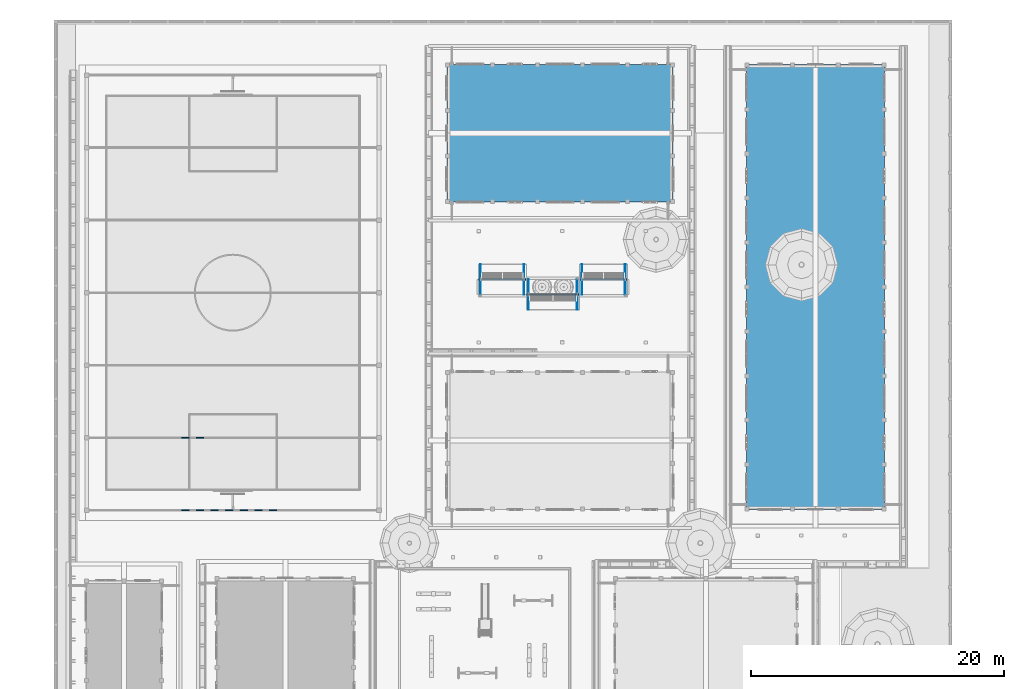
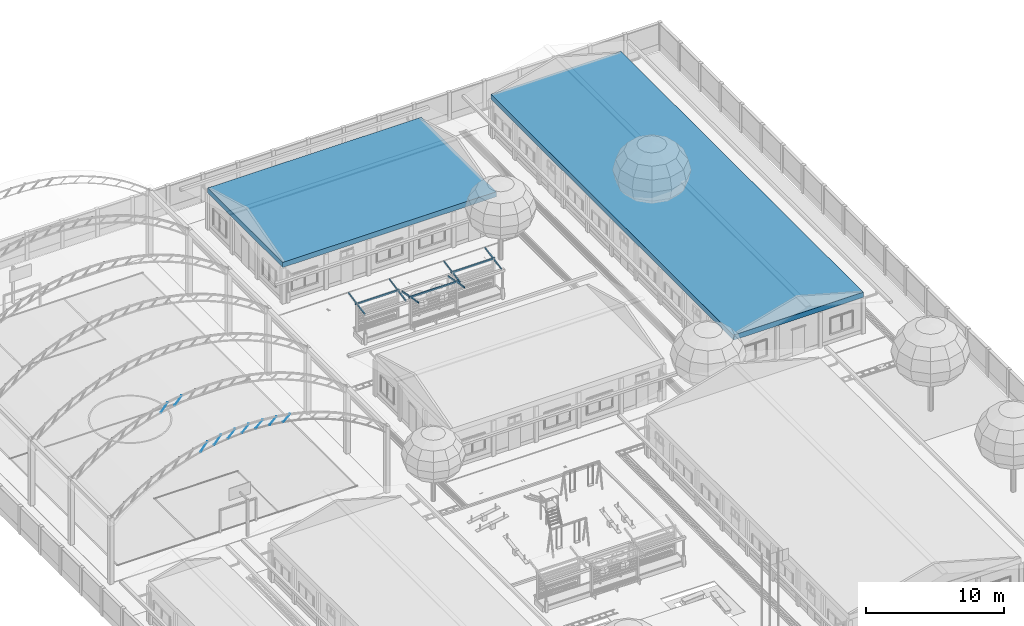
# One storey, part 24 of 166: 20 beams.
"""IFC2X3 building model written with IfcOpenShell, lengths in metres."""

import ifcopenshell
import ifcopenshell.guid

model = None  # the IFC model being written
_history = None  # IfcOwnerHistory: only IFC2X3 demands one
_inside = {}  # id of a spatial element -> (the spatial element, [elements in it])
_under = {}  # id of a project, library or spatial element -> (it, [spatial elements below it])
_declared = {}  # id of a project -> (the project, [libraries it declares])
_typed = {}  # id of a type object -> (the type object, [elements of that type])
_made_of = {}  # id of a material, layer set ... -> (it, [elements and type objects made of it])


def new_model(schema):
    """Start an empty IFC model of exactly this schema.

    Asked for "IFC4X3", IfcOpenShell would pick the latest addendum, in which some entities
    have other attributes; the version numbers below select the first issue.
    IFC2X3 requires an IfcOwnerHistory on every rooted entity: one is made here for all.
    """
    global model, _history
    if schema == "IFC4X3":
        model = ifcopenshell.file(schema_version=(4, 3, 0, 0))
    else:
        model = ifcopenshell.file(schema=schema)
    _inside.clear()
    _under.clear()
    _declared.clear()
    _typed.clear()
    _made_of.clear()
    _history = None
    if model.schema == "IFC2X3":
        org = make("IfcOrganization", Name="unknown")
        user = make(
            "IfcPersonAndOrganization",
            ThePerson=make("IfcPerson", FamilyName="unknown"),
            TheOrganization=org,
        )
        app = make(
            "IfcApplication",
            ApplicationDeveloper=org,
            Version="unknown",
            ApplicationFullName="unknown",
            ApplicationIdentifier="unknown",
        )
        _history = make(
            "IfcOwnerHistory",
            OwningUser=user,
            OwningApplication=app,
            ChangeAction="ADDED",
            CreationDate=0,
        )
    return model


def make(cls, **values):
    """One entity of the class cls with the attributes given. An attribute that is None is left unset."""
    return model.create_entity(
        cls, **{name: value for name, value in values.items() if value is not None}
    )


def rooted(cls, **values):
    """An entity with a GlobalId (a new one), such as an element, a storey or a relation."""
    return make(cls, GlobalId=ifcopenshell.guid.new(), OwnerHistory=_history, **values)


def si_unit(unit_type, name, prefix=None):
    """IfcSIUnit, for example si_unit("LENGTHUNIT", "METRE", prefix="MILLI")."""
    return make("IfcSIUnit", UnitType=unit_type, Prefix=prefix, Name=name)


def assignment(units):
    """IfcUnitAssignment: the units of a project."""
    return None if units is None else make("IfcUnitAssignment", Units=units)


def point(xyz):
    """IfcCartesianPoint."""
    return None if xyz is None else make("IfcCartesianPoint", Coordinates=xyz)


def direction(xyz):
    """IfcDirection."""
    return None if xyz is None else make("IfcDirection", DirectionRatios=xyz)


def frame(location, z_axis=None, x_axis=None):
    """IfcAxis2Placement3D, a coordinate frame: its origin and axes. An axis left out is left unset."""
    return make(
        "IfcAxis2Placement3D",
        Location=point(location),
        Axis=direction(z_axis),
        RefDirection=direction(x_axis),
    )


def origin():
    """The frame at (0, 0, 0) with its axes left unset."""
    return frame((0.0, 0.0, 0.0))


def origin_with_axes():
    """The frame at (0, 0, 0) with the z axis (0, 0, 1) and the x axis (1, 0, 0) written out."""
    return frame((0.0, 0.0, 0.0), z_axis=(0.0, 0.0, 1.0), x_axis=(1.0, 0.0, 0.0))


def place(relative_to, where):
    """IfcLocalPlacement: puts the frame where relative to a parent placement (None: the world)."""
    return make(
        "IfcLocalPlacement", PlacementRelTo=relative_to, RelativePlacement=where
    )


def context(
    kind, dimensions, precision=None, world=None, true_north=None, identifier=None
):
    """IfcGeometricRepresentationContext, for example the 3D "Model" context."""
    return make(
        "IfcGeometricRepresentationContext",
        ContextIdentifier=identifier,
        ContextType=kind,
        CoordinateSpaceDimension=dimensions,
        Precision=precision,
        WorldCoordinateSystem=world,
        TrueNorth=true_north,
    )


def subcontext(parent, identifier, kind, view, scale=None):
    """IfcGeometricRepresentationSubContext, for example "Body" below "Model"."""
    return make(
        "IfcGeometricRepresentationSubContext",
        ContextIdentifier=identifier,
        ContextType=kind,
        ParentContext=parent,
        TargetScale=scale,
        TargetView=view,
    )


def project(units=None, contexts=None):
    """IfcProject with its units and contexts."""
    return rooted(
        "IfcProject",
        Name="project",
        RepresentationContexts=contexts,
        UnitsInContext=assignment(units),
    )


def spatial(cls, under=None, at=None, **own):
    """A site, building, storey or space (cls), placed at a placement, below another one or the project."""
    s = rooted(cls, ObjectPlacement=at, **own)
    if under is not None:
        _under.setdefault(under.id(), (under, []))[1].append(s)
    return s


def faces_of(points, faces, orient=None, outer=None):
    """IfcFace entities. A face is a list of loops; a loop is a list of indices into points, from 0.

    orient and outer hold one flag for each loop. By default every Orientation is true, the
    first loop of a face is its IfcFaceOuterBound and the others are IfcFaceBound.
    """
    made = []
    for i, loops in enumerate(faces):
        bounds = []
        for j, loop in enumerate(loops):
            is_outer = j == 0 if outer is None else outer[i][j]
            bounds.append(
                make(
                    "IfcFaceOuterBound" if is_outer else "IfcFaceBound",
                    Bound=make("IfcPolyLoop", Polygon=[points[k] for k in loop]),
                    Orientation=True if orient is None else orient[i][j],
                )
            )
        made.append(make("IfcFace", Bounds=bounds))
    return made


def faceted_brep(points, faces, orient=None, outer=None, voids=None):
    """IfcFacetedBrep: a solid bounded by flat faces; with voids (closed shells), ...WithVoids."""
    shared = [point(p) for p in points]
    hull = make("IfcClosedShell", CfsFaces=faces_of(shared, faces, orient, outer))
    if voids is None:
        return make("IfcFacetedBrep", Outer=hull)
    return make(
        "IfcFacetedBrepWithVoids",
        Outer=hull,
        Voids=[
            make(cls, CfsFaces=faces_of(shared, fs, o, b)) for cls, fs, o, b in voids
        ],
    )


def shape(context_of_items, identifier, shape_type, items):
    """IfcShapeRepresentation: the items that make up one representation, for example the "Body"."""
    return make(
        "IfcShapeRepresentation",
        ContextOfItems=context_of_items,
        RepresentationIdentifier=identifier,
        RepresentationType=shape_type,
        Items=items,
    )


def made_of(thing, what):
    """Note that an element or type object is made of a material, layer set ...; save() writes the relation."""
    if what is not None:
        _made_of.setdefault(what.id(), (what, []))[1].append(thing)
    return thing


def element(
    cls,
    number,
    at=None,
    inside=None,
    cuts=None,
    type_object=None,
    material=None,
    context=None,
    identifier="Body",
    shape_type=None,
    held_by="IfcProductDefinitionShape",
    body=None,
    shapes=None,
    **own,
):
    """One element of the class cls, such as IfcWall. Its Tag is "e" and its number.

    at: its placement. inside: the storey or other place that contains it. cuts: it is an
    opening in that element (IfcRelVoidsElement). A single representation is given by context,
    identifier, shape_type and body (its items); several are given by shapes. held_by: the class
    of the entity that holds the representations. save() writes the other relations.
    """
    e = rooted(cls, Tag="e%d" % number, ObjectPlacement=at, **own)
    if body is not None:
        shapes = [shape(context, identifier, shape_type, body)]
    if shapes is not None:
        e.Representation = make(held_by, Representations=shapes)
    if inside is not None:
        _inside.setdefault(inside.id(), (inside, []))[1].append(e)
    if cuts is not None:
        rooted(
            "IfcRelVoidsElement", RelatingBuildingElement=cuts, RelatedOpeningElement=e
        )
    if type_object is not None:
        _typed.setdefault(type_object.id(), (type_object, []))[1].append(e)
    return made_of(e, material)


def aggregate(whole, parts):
    """IfcRelAggregates: a whole, such as a stair, and the parts it consists of."""
    return rooted("IfcRelAggregates", RelatingObject=whole, RelatedObjects=parts)


def save(model, path):
    """Write the relations noted so far, then the file.

    IfcRelAggregates (storeys below a building ...), IfcRelContainedInSpatialStructure (elements
    in a storey), IfcRelDefinesByType, IfcRelAssociatesMaterial and IfcRelDeclares: one each for
    every whole, place, type object, material and project.
    """
    for whole, parts in _under.values():
        aggregate(whole, parts)
    for where, things in _inside.values():
        rooted(
            "IfcRelContainedInSpatialStructure",
            RelatedElements=things,
            RelatingStructure=where,
        )
    for kind, things in _typed.values():
        rooted("IfcRelDefinesByType", RelatedObjects=things, RelatingType=kind)
    for what, things in _made_of.values():
        rooted("IfcRelAssociatesMaterial", RelatedObjects=things, RelatingMaterial=what)
    for by, libraries in _declared.values():
        rooted("IfcRelDeclares", RelatingContext=by, RelatedDefinitions=libraries)
    model.write(path)


model = new_model("IFC2X3")

# Units and contexts
model_context = context("Model", 3, precision=1e-05, world=origin_with_axes())
body_context = subcontext(model_context, "Body", "Model", "MODEL_VIEW")
ifc_project = project(units=[si_unit("LENGTHUNIT", "METRE"), si_unit("AREAUNIT", "SQUARE_METRE"), si_unit("VOLUMEUNIT", "CUBIC_METRE"), si_unit("PLANEANGLEUNIT", "RADIAN")], contexts=[model_context])

# Site, building, storey
site_placement = place(None, origin_with_axes())
site = spatial("IfcSite", under=ifc_project, at=site_placement, Name="Predio Los Mangos - Morales, San Martín", CompositionType="ELEMENT")
building_placement = place(site_placement, origin())
building = spatial("IfcBuilding", under=site, at=building_placement, Name="Hogar de Refugio Temporal", CompositionType="ELEMENT")
storey_placement = place(building_placement, origin())
storey = spatial("IfcBuildingStorey", under=building, at=storey_placement, Name="NIVEL 1 (NPT +0.00)", CompositionType="ELEMENT", Elevation=0.0)

# Beams
beam_1_placement = place(storey_placement, origin())
element("IfcBeam", 1, at=beam_1_placement, inside=storey, Name="E-08_viga", ObjectType="Viga", context=body_context, shape_type="Brep", body=[
    faceted_brep([(31.96, 116.96, 3.3), (31.96, 127.84, 3.3), (49.84, 127.84, 3.3), (49.84, 116.96, 3.3), (31.96, 116.96, 3.75), (49.84, 116.96, 3.75), (49.84, 127.84, 3.75), (31.96, 127.84, 3.75)], [[[0, 1, 2, 3]], [[4, 5, 6, 7]], [[0, 3, 5, 4]], [[3, 2, 6, 5]], [[2, 1, 7, 6]], [[1, 0, 4, 7]]]),
])
beam_2_placement = place(storey_placement, origin())
element("IfcBeam", 2, at=beam_2_placement, inside=storey, Name="E-07_viga", ObjectType="Viga", context=body_context, shape_type="Brep", body=[
    faceted_brep([(55.66, 92.66, 3.3), (55.66, 127.84, 3.3), (66.54, 127.84, 3.3), (66.54, 92.66, 3.3), (55.66, 92.66, 3.75), (66.54, 92.66, 3.75), (66.54, 127.84, 3.75), (55.66, 127.84, 3.75)], [[[0, 1, 2, 3]], [[4, 5, 6, 7]], [[0, 3, 5, 4]], [[3, 2, 6, 5]], [[2, 1, 7, 6]], [[1, 0, 4, 7]]]),
])
beam_3_placement = place(storey_placement, origin())
element("IfcBeam", 3, at=beam_3_placement, inside=storey, Name="diag", ObjectType="Viga", context=body_context, shape_type="Brep", body=[
    faceted_brep([(10.9977, 92.6217, 9.0975), (11.5752, 92.6217, 9.8208), (11.585, 92.625, 9.813), (11.0075, 92.625, 9.0897), (10.9906, 92.6125, 9.1032), (11.5681, 92.6125, 9.8265), (10.988, 92.6, 9.1053), (11.5655, 92.6, 9.8286), (10.9906, 92.5875, 9.1032), (11.5681, 92.5875, 9.8265), (10.9977, 92.5783, 9.0975), (11.5752, 92.5783, 9.8208), (11.0075, 92.575, 9.0897), (11.585, 92.575, 9.813), (11.0173, 92.5783, 9.0819), (11.5948, 92.5783, 9.8052), (11.0244, 92.5875, 9.0762), (11.6019, 92.5875, 9.7995), (11.027, 92.6, 9.0741), (11.6045, 92.6, 9.7974), (11.0244, 92.6125, 9.0762), (11.6019, 92.6125, 9.7995), (11.0173, 92.6217, 9.0819), (11.5948, 92.6217, 9.8052), (11.0058, 92.6037, 9.091), (11.0075, 92.6043, 9.0897), (11.585, 92.6043, 9.813), (11.5833, 92.6037, 9.8143), (11.0046, 92.6021, 9.092), (11.5821, 92.6021, 9.8153), (11.0041, 92.6, 9.0924), (11.5816, 92.6, 9.8157), (11.0046, 92.5979, 9.092), (11.5821, 92.5979, 9.8153), (11.0058, 92.5963, 9.091), (11.5833, 92.5963, 9.8143), (11.0075, 92.5957, 9.0897), (11.585, 92.5957, 9.813), (11.0092, 92.5963, 9.0884), (11.5867, 92.5963, 9.8116), (11.0104, 92.5979, 9.0874), (11.5879, 92.5979, 9.8107), (11.0109, 92.6, 9.087), (11.5884, 92.6, 9.8103), (11.0104, 92.6021, 9.0874), (11.5879, 92.6021, 9.8107), (11.0092, 92.6037, 9.0884), (11.5867, 92.6037, 9.8116)], [[[0, 1, 2, 3]], [[4, 5, 1, 0]], [[6, 7, 5, 4]], [[8, 9, 7, 6]], [[10, 11, 9, 8]], [[12, 13, 11, 10]], [[14, 15, 13, 12]], [[16, 17, 15, 14]], [[18, 19, 17, 16]], [[20, 21, 19, 18]], [[22, 23, 21, 20]], [[3, 2, 23, 22]], [[24, 25, 26, 27]], [[28, 24, 27, 29]], [[30, 28, 29, 31]], [[32, 30, 31, 33]], [[34, 32, 33, 35]], [[36, 34, 35, 37]], [[38, 36, 37, 39]], [[40, 38, 39, 41]], [[42, 40, 41, 43]], [[44, 42, 43, 45]], [[46, 44, 45, 47]], [[25, 46, 47, 26]], [[5, 7, 31, 29]], [[15, 17, 41, 39]], [[2, 1, 27, 26]], [[8, 6, 30, 32]], [[18, 16, 40, 42]], [[11, 13, 37, 35]], [[21, 23, 47, 45]], [[4, 0, 24, 28]], [[14, 12, 36, 38]], [[3, 22, 46, 25]], [[7, 9, 33, 31]], [[17, 19, 43, 41]], [[23, 2, 26, 47]], [[10, 8, 32, 34]], [[20, 18, 42, 44]], [[1, 5, 29, 27]], [[13, 15, 39, 37]], [[6, 4, 28, 30]], [[16, 14, 38, 40]], [[0, 3, 25, 24]], [[9, 11, 35, 33]], [[19, 21, 45, 43]], [[12, 10, 34, 36]], [[22, 20, 44, 46]]]),
])
beam_4_placement = place(storey_placement, origin())
element("IfcBeam", 4, at=beam_4_placement, inside=storey, Name="diag", ObjectType="Viga", context=body_context, shape_type="Brep", body=[
    faceted_brep([(12.1529, 92.6217, 9.3247), (12.7304, 92.6217, 10.0091), (12.74, 92.625, 10.001), (12.1625, 92.625, 9.3166), (12.146, 92.6125, 9.3306), (12.7235, 92.6125, 10.015), (12.1434, 92.6, 9.3328), (12.7209, 92.6, 10.0171), (12.146, 92.5875, 9.3306), (12.7235, 92.5875, 10.015), (12.1529, 92.5783, 9.3247), (12.7304, 92.5783, 10.0091), (12.1625, 92.575, 9.3166), (12.74, 92.575, 10.001), (12.1721, 92.5783, 9.3086), (12.7496, 92.5783, 9.9929), (12.179, 92.5875, 9.3027), (12.7565, 92.5875, 9.987), (12.1816, 92.6, 9.3005), (12.7591, 92.6, 9.9849), (12.179, 92.6125, 9.3027), (12.7565, 92.6125, 9.987), (12.1721, 92.6217, 9.3086), (12.7496, 92.6217, 9.9929), (12.1609, 92.6037, 9.318), (12.1625, 92.6043, 9.3166), (12.74, 92.6043, 10.001), (12.7384, 92.6037, 10.0024), (12.1597, 92.6021, 9.319), (12.7372, 92.6021, 10.0034), (12.1592, 92.6, 9.3194), (12.7367, 92.6, 10.0038), (12.1597, 92.5979, 9.319), (12.7372, 92.5979, 10.0034), (12.1609, 92.5963, 9.318), (12.7384, 92.5963, 10.0024), (12.1625, 92.5957, 9.3166), (12.74, 92.5957, 10.001), (12.1641, 92.5963, 9.3153), (12.7416, 92.5963, 9.9996), (12.1653, 92.5979, 9.3142), (12.7428, 92.5979, 9.9986), (12.1658, 92.6, 9.3139), (12.7433, 92.6, 9.9982), (12.1653, 92.6021, 9.3142), (12.7428, 92.6021, 9.9986), (12.1641, 92.6037, 9.3153), (12.7416, 92.6037, 9.9996)], [[[0, 1, 2, 3]], [[4, 5, 1, 0]], [[6, 7, 5, 4]], [[8, 9, 7, 6]], [[10, 11, 9, 8]], [[12, 13, 11, 10]], [[14, 15, 13, 12]], [[16, 17, 15, 14]], [[18, 19, 17, 16]], [[20, 21, 19, 18]], [[22, 23, 21, 20]], [[3, 2, 23, 22]], [[24, 25, 26, 27]], [[28, 24, 27, 29]], [[30, 28, 29, 31]], [[32, 30, 31, 33]], [[34, 32, 33, 35]], [[36, 34, 35, 37]], [[38, 36, 37, 39]], [[40, 38, 39, 41]], [[42, 40, 41, 43]], [[44, 42, 43, 45]], [[46, 44, 45, 47]], [[25, 46, 47, 26]], [[4, 0, 24, 28]], [[14, 12, 36, 38]], [[3, 22, 46, 25]], [[7, 9, 33, 31]], [[17, 19, 43, 41]], [[23, 2, 26, 47]], [[10, 8, 32, 34]], [[20, 18, 42, 44]], [[1, 5, 29, 27]], [[13, 15, 39, 37]], [[6, 4, 28, 30]], [[16, 14, 38, 40]], [[0, 3, 25, 24]], [[9, 11, 35, 33]], [[19, 21, 45, 43]], [[12, 10, 34, 36]], [[22, 20, 44, 46]], [[5, 7, 31, 29]], [[15, 17, 41, 39]], [[2, 1, 27, 26]], [[8, 6, 30, 32]], [[18, 16, 40, 42]], [[11, 13, 37, 35]], [[21, 23, 47, 45]]]),
])
beam_5_placement = place(storey_placement, origin())
element("IfcBeam", 5, at=beam_5_placement, inside=storey, Name="diag", ObjectType="Viga", context=body_context, shape_type="Brep", body=[
    faceted_brep([(13.3082, 92.6217, 9.4747), (13.8857, 92.6217, 10.1212), (13.895, 92.625, 10.1129), (13.3175, 92.625, 9.4663), (13.3014, 92.6125, 9.4808), (13.8789, 92.6125, 10.1273), (13.2989, 92.6, 9.483), (13.8764, 92.6, 10.1295), (13.3014, 92.5875, 9.4808), (13.8789, 92.5875, 10.1273), (13.3082, 92.5783, 9.4747), (13.8857, 92.5783, 10.1212), (13.3175, 92.575, 9.4663), (13.895, 92.575, 10.1129), (13.3268, 92.5783, 9.458), (13.9043, 92.5783, 10.1045), (13.3336, 92.5875, 9.4519), (13.9111, 92.5875, 10.0984), (13.3361, 92.6, 9.4497), (13.9136, 92.6, 10.0962), (13.3336, 92.6125, 9.4519), (13.9111, 92.6125, 10.0984), (13.3268, 92.6217, 9.458), (13.9043, 92.6217, 10.1045), (13.3159, 92.6037, 9.4678), (13.3175, 92.6043, 9.4663), (13.895, 92.6043, 10.1129), (13.8934, 92.6037, 10.1143), (13.3147, 92.6021, 9.4688), (13.8922, 92.6021, 10.1153), (13.3143, 92.6, 9.4692), (13.8918, 92.6, 10.1157), (13.3147, 92.5979, 9.4688), (13.8922, 92.5979, 10.1153), (13.3159, 92.5963, 9.4678), (13.8934, 92.5963, 10.1143), (13.3175, 92.5957, 9.4663), (13.895, 92.5957, 10.1129), (13.3191, 92.5963, 9.4649), (13.8966, 92.5963, 10.1114), (13.3203, 92.5979, 9.4639), (13.8978, 92.5979, 10.1104), (13.3207, 92.6, 9.4635), (13.8982, 92.6, 10.11), (13.3203, 92.6021, 9.4639), (13.8978, 92.6021, 10.1104), (13.3191, 92.6037, 9.4649), (13.8966, 92.6037, 10.1114)], [[[0, 1, 2, 3]], [[4, 5, 1, 0]], [[6, 7, 5, 4]], [[8, 9, 7, 6]], [[10, 11, 9, 8]], [[12, 13, 11, 10]], [[14, 15, 13, 12]], [[16, 17, 15, 14]], [[18, 19, 17, 16]], [[20, 21, 19, 18]], [[22, 23, 21, 20]], [[3, 2, 23, 22]], [[24, 25, 26, 27]], [[28, 24, 27, 29]], [[30, 28, 29, 31]], [[32, 30, 31, 33]], [[34, 32, 33, 35]], [[36, 34, 35, 37]], [[38, 36, 37, 39]], [[40, 38, 39, 41]], [[42, 40, 41, 43]], [[44, 42, 43, 45]], [[46, 44, 45, 47]], [[25, 46, 47, 26]], [[5, 7, 31, 29]], [[15, 17, 41, 39]], [[2, 1, 27, 26]], [[8, 6, 30, 32]], [[18, 16, 40, 42]], [[11, 13, 37, 35]], [[21, 23, 47, 45]], [[4, 0, 24, 28]], [[14, 12, 36, 38]], [[3, 22, 46, 25]], [[7, 9, 33, 31]], [[17, 19, 43, 41]], [[23, 2, 26, 47]], [[10, 8, 32, 34]], [[20, 18, 42, 44]], [[1, 5, 29, 27]], [[13, 15, 39, 37]], [[6, 4, 28, 30]], [[16, 14, 38, 40]], [[0, 3, 25, 24]], [[9, 11, 35, 33]], [[19, 21, 45, 43]], [[12, 10, 34, 36]], [[22, 20, 44, 46]]]),
])
beam_6_placement = place(storey_placement, origin())
element("IfcBeam", 6, at=beam_6_placement, inside=storey, Name="diag", ObjectType="Viga", context=body_context, shape_type="Brep", body=[
    faceted_brep([(14.4634, 92.6217, 9.5493), (15.0409, 92.6217, 10.1586), (15.05, 92.625, 10.15), (14.4725, 92.625, 9.5407), (14.4568, 92.6125, 9.5556), (15.0343, 92.6125, 10.1649), (14.4544, 92.6, 9.5579), (15.0319, 92.6, 10.1672), (14.4568, 92.5875, 9.5556), (15.0343, 92.5875, 10.1649), (14.4634, 92.5783, 9.5493), (15.0409, 92.5783, 10.1586), (14.4725, 92.575, 9.5407), (15.05, 92.575, 10.15), (14.4816, 92.5783, 9.5321), (15.0591, 92.5783, 10.1414), (14.4882, 92.5875, 9.5258), (15.0657, 92.5875, 10.1351), (14.4906, 92.6, 9.5235), (15.0681, 92.6, 10.1328), (14.4882, 92.6125, 9.5258), (15.0657, 92.6125, 10.1351), (14.4816, 92.6217, 9.5321), (15.0591, 92.6217, 10.1414), (14.4709, 92.6037, 9.5422), (14.4725, 92.6043, 9.5407), (15.05, 92.6043, 10.15), (15.0484, 92.6037, 10.1515), (14.4698, 92.6021, 9.5433), (15.0473, 92.6021, 10.1526), (14.4694, 92.6, 9.5437), (15.0469, 92.6, 10.153), (14.4698, 92.5979, 9.5433), (15.0473, 92.5979, 10.1526), (14.4709, 92.5963, 9.5422), (15.0484, 92.5963, 10.1515), (14.4725, 92.5957, 9.5407), (15.05, 92.5957, 10.15), (14.4741, 92.5963, 9.5392), (15.0516, 92.5963, 10.1485), (14.4752, 92.5979, 9.5382), (15.0527, 92.5979, 10.1474), (14.4756, 92.6, 9.5378), (15.0531, 92.6, 10.147), (14.4752, 92.6021, 9.5382), (15.0527, 92.6021, 10.1474), (14.4741, 92.6037, 9.5392), (15.0516, 92.6037, 10.1485)], [[[0, 1, 2, 3]], [[4, 5, 1, 0]], [[6, 7, 5, 4]], [[8, 9, 7, 6]], [[10, 11, 9, 8]], [[12, 13, 11, 10]], [[14, 15, 13, 12]], [[16, 17, 15, 14]], [[18, 19, 17, 16]], [[20, 21, 19, 18]], [[22, 23, 21, 20]], [[3, 2, 23, 22]], [[24, 25, 26, 27]], [[28, 24, 27, 29]], [[30, 28, 29, 31]], [[32, 30, 31, 33]], [[34, 32, 33, 35]], [[36, 34, 35, 37]], [[38, 36, 37, 39]], [[40, 38, 39, 41]], [[42, 40, 41, 43]], [[44, 42, 43, 45]], [[46, 44, 45, 47]], [[25, 46, 47, 26]], [[6, 4, 28, 30]], [[16, 14, 38, 40]], [[0, 3, 25, 24]], [[9, 11, 35, 33]], [[19, 21, 45, 43]], [[12, 10, 34, 36]], [[22, 20, 44, 46]], [[5, 7, 31, 29]], [[15, 17, 41, 39]], [[2, 1, 27, 26]], [[8, 6, 30, 32]], [[18, 16, 40, 42]], [[11, 13, 37, 35]], [[21, 23, 47, 45]], [[4, 0, 24, 28]], [[14, 12, 36, 38]], [[3, 22, 46, 25]], [[7, 9, 33, 31]], [[17, 19, 43, 41]], [[23, 2, 26, 47]], [[10, 8, 32, 34]], [[20, 18, 42, 44]], [[1, 5, 29, 27]], [[13, 15, 39, 37]]]),
])
beam_7_placement = place(storey_placement, origin())
element("IfcBeam", 7, at=beam_7_placement, inside=storey, Name="diag", ObjectType="Viga", context=body_context, shape_type="Brep", body=[
    faceted_brep([(15.6187, 92.6217, 9.5496), (16.1962, 92.6217, 10.1217), (16.205, 92.625, 10.1129), (15.6275, 92.625, 9.5407), (15.6123, 92.6125, 9.5561), (16.1898, 92.6125, 10.1282), (15.6099, 92.6, 9.5585), (16.1874, 92.6, 10.1306), (15.6123, 92.5875, 9.5561), (16.1898, 92.5875, 10.1282), (15.6187, 92.5783, 9.5496), (16.1962, 92.5783, 10.1217), (15.6275, 92.575, 9.5407), (16.205, 92.575, 10.1129), (15.6363, 92.5783, 9.5318), (16.2138, 92.5783, 10.104), (15.6427, 92.5875, 9.5253), (16.2202, 92.5875, 10.0975), (15.6451, 92.6, 9.523), (16.2226, 92.6, 10.0951), (15.6427, 92.6125, 9.5253), (16.2202, 92.6125, 10.0975), (15.6363, 92.6217, 9.5318), (16.2138, 92.6217, 10.104), (15.626, 92.6037, 9.5422), (15.6275, 92.6043, 9.5407), (16.205, 92.6043, 10.1129), (16.2035, 92.6037, 10.1144), (15.6249, 92.6021, 9.5434), (16.2024, 92.6021, 10.1155), (15.6245, 92.6, 9.5438), (16.202, 92.6, 10.1159), (15.6249, 92.5979, 9.5434), (16.2024, 92.5979, 10.1155), (15.626, 92.5963, 9.5422), (16.2035, 92.5963, 10.1144), (15.6275, 92.5957, 9.5407), (16.205, 92.5957, 10.1129), (15.629, 92.5963, 9.5392), (16.2065, 92.5963, 10.1113), (15.6301, 92.5979, 9.5381), (16.2076, 92.5979, 10.1102), (15.6305, 92.6, 9.5377), (16.208, 92.6, 10.1098), (15.6301, 92.6021, 9.5381), (16.2076, 92.6021, 10.1102), (15.629, 92.6037, 9.5392), (16.2065, 92.6037, 10.1113)], [[[0, 1, 2, 3]], [[4, 5, 1, 0]], [[6, 7, 5, 4]], [[8, 9, 7, 6]], [[10, 11, 9, 8]], [[12, 13, 11, 10]], [[14, 15, 13, 12]], [[16, 17, 15, 14]], [[18, 19, 17, 16]], [[20, 21, 19, 18]], [[22, 23, 21, 20]], [[3, 2, 23, 22]], [[24, 25, 26, 27]], [[28, 24, 27, 29]], [[30, 28, 29, 31]], [[32, 30, 31, 33]], [[34, 32, 33, 35]], [[36, 34, 35, 37]], [[38, 36, 37, 39]], [[40, 38, 39, 41]], [[42, 40, 41, 43]], [[44, 42, 43, 45]], [[46, 44, 45, 47]], [[25, 46, 47, 26]], [[9, 11, 35, 33]], [[19, 21, 45, 43]], [[12, 10, 34, 36]], [[22, 20, 44, 46]], [[5, 7, 31, 29]], [[15, 17, 41, 39]], [[2, 1, 27, 26]], [[8, 6, 30, 32]], [[18, 16, 40, 42]], [[11, 13, 37, 35]], [[21, 23, 47, 45]], [[4, 0, 24, 28]], [[14, 12, 36, 38]], [[3, 22, 46, 25]], [[7, 9, 33, 31]], [[17, 19, 43, 41]], [[23, 2, 26, 47]], [[10, 8, 32, 34]], [[20, 18, 42, 44]], [[1, 5, 29, 27]], [[13, 15, 39, 37]], [[6, 4, 28, 30]], [[16, 14, 38, 40]], [[0, 3, 25, 24]]]),
])
beam_8_placement = place(storey_placement, origin())
element("IfcBeam", 8, at=beam_8_placement, inside=storey, Name="diag", ObjectType="Viga", context=body_context, shape_type="Brep", body=[
    faceted_brep([(16.774, 92.6217, 9.4755), (17.3515, 92.6217, 10.0102), (17.36, 92.625, 10.001), (16.7825, 92.625, 9.4663), (16.7678, 92.6125, 9.4822), (17.3453, 92.6125, 10.0169), (16.7655, 92.6, 9.4847), (17.343, 92.6, 10.0193), (16.7678, 92.5875, 9.4822), (17.3453, 92.5875, 10.0169), (16.774, 92.5783, 9.4755), (17.3515, 92.5783, 10.0102), (16.7825, 92.575, 9.4663), (17.36, 92.575, 10.001), (16.791, 92.5783, 9.4572), (17.3685, 92.5783, 9.9918), (16.7972, 92.5875, 9.4505), (17.3747, 92.5875, 9.9851), (16.7995, 92.6, 9.448), (17.377, 92.6, 9.9827), (16.7972, 92.6125, 9.4505), (17.3747, 92.6125, 9.9851), (16.791, 92.6217, 9.4572), (17.3685, 92.6217, 9.9918), (16.781, 92.6037, 9.4679), (16.7825, 92.6043, 9.4663), (17.36, 92.6043, 10.001), (17.3585, 92.6037, 10.0026), (16.78, 92.6021, 9.4691), (17.3575, 92.6021, 10.0037), (16.7796, 92.6, 9.4695), (17.3571, 92.6, 10.0042), (16.78, 92.5979, 9.4691), (17.3575, 92.5979, 10.0037), (16.781, 92.5963, 9.4679), (17.3585, 92.5963, 10.0026), (16.7825, 92.5957, 9.4663), (17.36, 92.5957, 10.001), (16.784, 92.5963, 9.4648), (17.3615, 92.5963, 9.9994), (16.785, 92.5979, 9.4636), (17.3625, 92.5979, 9.9983), (16.7854, 92.6, 9.4632), (17.3629, 92.6, 9.9979), (16.785, 92.6021, 9.4636), (17.3625, 92.6021, 9.9983), (16.784, 92.6037, 9.4648), (17.3615, 92.6037, 9.9994)], [[[0, 1, 2, 3]], [[4, 5, 1, 0]], [[6, 7, 5, 4]], [[8, 9, 7, 6]], [[10, 11, 9, 8]], [[12, 13, 11, 10]], [[14, 15, 13, 12]], [[16, 17, 15, 14]], [[18, 19, 17, 16]], [[20, 21, 19, 18]], [[22, 23, 21, 20]], [[3, 2, 23, 22]], [[24, 25, 26, 27]], [[28, 24, 27, 29]], [[30, 28, 29, 31]], [[32, 30, 31, 33]], [[34, 32, 33, 35]], [[36, 34, 35, 37]], [[38, 36, 37, 39]], [[40, 38, 39, 41]], [[42, 40, 41, 43]], [[44, 42, 43, 45]], [[46, 44, 45, 47]], [[25, 46, 47, 26]], [[15, 17, 41, 39]], [[2, 1, 27, 26]], [[8, 6, 30, 32]], [[18, 16, 40, 42]], [[11, 13, 37, 35]], [[21, 23, 47, 45]], [[4, 0, 24, 28]], [[14, 12, 36, 38]], [[3, 22, 46, 25]], [[7, 9, 33, 31]], [[17, 19, 43, 41]], [[23, 2, 26, 47]], [[10, 8, 32, 34]], [[20, 18, 42, 44]], [[1, 5, 29, 27]], [[13, 15, 39, 37]], [[6, 4, 28, 30]], [[16, 14, 38, 40]], [[0, 3, 25, 24]], [[9, 11, 35, 33]], [[19, 21, 45, 43]], [[12, 10, 34, 36]], [[22, 20, 44, 46]], [[5, 7, 31, 29]]]),
])
beam_9_placement = place(storey_placement, origin())
element("IfcBeam", 9, at=beam_9_placement, inside=storey, Name="diag", ObjectType="Viga", context=body_context, shape_type="Brep", body=[
    faceted_brep([(17.9294, 92.6217, 9.3261), (18.5069, 92.6217, 9.8225), (18.515, 92.625, 9.813), (17.9375, 92.625, 9.3166), (17.9234, 92.6125, 9.3331), (18.5009, 92.6125, 9.8294), (17.9212, 92.6, 9.3356), (18.4987, 92.6, 9.8319), (17.9234, 92.5875, 9.3331), (18.5009, 92.5875, 9.8294), (17.9294, 92.5783, 9.3261), (18.5069, 92.5783, 9.8225), (17.9375, 92.575, 9.3166), (18.515, 92.575, 9.813), (17.9456, 92.5783, 9.3072), (18.5231, 92.5783, 9.8035), (17.9516, 92.5875, 9.3002), (18.5291, 92.5875, 9.7966), (17.9538, 92.6, 9.2977), (18.5313, 92.6, 9.794), (17.9516, 92.6125, 9.3002), (18.5291, 92.6125, 9.7966), (17.9456, 92.6217, 9.3072), (18.5231, 92.6217, 9.8035), (17.9361, 92.6037, 9.3183), (17.9375, 92.6043, 9.3166), (18.515, 92.6043, 9.813), (18.5136, 92.6037, 9.8146), (17.9351, 92.6021, 9.3195), (18.5126, 92.6021, 9.8158), (17.9347, 92.6, 9.3199), (18.5122, 92.6, 9.8162), (17.9351, 92.5979, 9.3195), (18.5126, 92.5979, 9.8158), (17.9361, 92.5963, 9.3183), (18.5136, 92.5963, 9.8146), (17.9375, 92.5957, 9.3166), (18.515, 92.5957, 9.813), (17.9389, 92.5963, 9.315), (18.5164, 92.5963, 9.8114), (17.9399, 92.5979, 9.3138), (18.5174, 92.5979, 9.8102), (17.9403, 92.6, 9.3134), (18.5178, 92.6, 9.8097), (17.9399, 92.6021, 9.3138), (18.5174, 92.6021, 9.8102), (17.9389, 92.6037, 9.315), (18.5164, 92.6037, 9.8114)], [[[0, 1, 2, 3]], [[4, 5, 1, 0]], [[6, 7, 5, 4]], [[8, 9, 7, 6]], [[10, 11, 9, 8]], [[12, 13, 11, 10]], [[14, 15, 13, 12]], [[16, 17, 15, 14]], [[18, 19, 17, 16]], [[20, 21, 19, 18]], [[22, 23, 21, 20]], [[3, 2, 23, 22]], [[24, 25, 26, 27]], [[28, 24, 27, 29]], [[30, 28, 29, 31]], [[32, 30, 31, 33]], [[34, 32, 33, 35]], [[36, 34, 35, 37]], [[38, 36, 37, 39]], [[40, 38, 39, 41]], [[42, 40, 41, 43]], [[44, 42, 43, 45]], [[46, 44, 45, 47]], [[25, 46, 47, 26]], [[15, 17, 41, 39]], [[2, 1, 27, 26]], [[8, 6, 30, 32]], [[18, 16, 40, 42]], [[11, 13, 37, 35]], [[21, 23, 47, 45]], [[4, 0, 24, 28]], [[14, 12, 36, 38]], [[3, 22, 46, 25]], [[7, 9, 33, 31]], [[17, 19, 43, 41]], [[23, 2, 26, 47]], [[10, 8, 32, 34]], [[20, 18, 42, 44]], [[1, 5, 29, 27]], [[13, 15, 39, 37]], [[6, 4, 28, 30]], [[16, 14, 38, 40]], [[0, 3, 25, 24]], [[9, 11, 35, 33]], [[19, 21, 45, 43]], [[12, 10, 34, 36]], [[22, 20, 44, 46]], [[5, 7, 31, 29]]]),
])
beam_10_placement = place(storey_placement, origin())
element("IfcBeam", 10, at=beam_10_placement, inside=storey, Name="diag", ObjectType="Viga", context=body_context, shape_type="Brep", body=[
    faceted_brep([(10.9977, 98.355, 9.0975), (11.5752, 98.355, 9.8208), (11.585, 98.3583, 9.813), (11.0075, 98.3583, 9.0897), (10.9906, 98.3458, 9.1032), (11.5681, 98.3458, 9.8265), (10.988, 98.3333, 9.1053), (11.5655, 98.3333, 9.8286), (10.9906, 98.3208, 9.1032), (11.5681, 98.3208, 9.8265), (10.9977, 98.3117, 9.0975), (11.5752, 98.3117, 9.8208), (11.0075, 98.3083, 9.0897), (11.585, 98.3083, 9.813), (11.0173, 98.3117, 9.0819), (11.5948, 98.3117, 9.8052), (11.0244, 98.3208, 9.0762), (11.6019, 98.3208, 9.7995), (11.027, 98.3333, 9.0741), (11.6045, 98.3333, 9.7974), (11.0244, 98.3458, 9.0762), (11.6019, 98.3458, 9.7995), (11.0173, 98.355, 9.0819), (11.5948, 98.355, 9.8052), (11.0058, 98.3371, 9.091), (11.0075, 98.3376, 9.0897), (11.585, 98.3376, 9.813), (11.5833, 98.3371, 9.8143), (11.0046, 98.3355, 9.092), (11.5821, 98.3355, 9.8153), (11.0041, 98.3333, 9.0924), (11.5816, 98.3333, 9.8157), (11.0046, 98.3312, 9.092), (11.5821, 98.3312, 9.8153), (11.0058, 98.3296, 9.091), (11.5833, 98.3296, 9.8143), (11.0075, 98.329, 9.0897), (11.585, 98.329, 9.813), (11.0092, 98.3296, 9.0884), (11.5867, 98.3296, 9.8116), (11.0104, 98.3312, 9.0874), (11.5879, 98.3312, 9.8107), (11.0109, 98.3333, 9.087), (11.5884, 98.3333, 9.8103), (11.0104, 98.3355, 9.0874), (11.5879, 98.3355, 9.8107), (11.0092, 98.3371, 9.0884), (11.5867, 98.3371, 9.8116)], [[[0, 1, 2, 3]], [[4, 5, 1, 0]], [[6, 7, 5, 4]], [[8, 9, 7, 6]], [[10, 11, 9, 8]], [[12, 13, 11, 10]], [[14, 15, 13, 12]], [[16, 17, 15, 14]], [[18, 19, 17, 16]], [[20, 21, 19, 18]], [[22, 23, 21, 20]], [[3, 2, 23, 22]], [[24, 25, 26, 27]], [[28, 24, 27, 29]], [[30, 28, 29, 31]], [[32, 30, 31, 33]], [[34, 32, 33, 35]], [[36, 34, 35, 37]], [[38, 36, 37, 39]], [[40, 38, 39, 41]], [[42, 40, 41, 43]], [[44, 42, 43, 45]], [[46, 44, 45, 47]], [[25, 46, 47, 26]], [[6, 4, 28, 30]], [[16, 14, 38, 40]], [[0, 3, 25, 24]], [[9, 11, 35, 33]], [[19, 21, 45, 43]], [[12, 10, 34, 36]], [[22, 20, 44, 46]], [[5, 7, 31, 29]], [[15, 17, 41, 39]], [[2, 1, 27, 26]], [[8, 6, 30, 32]], [[18, 16, 40, 42]], [[11, 13, 37, 35]], [[21, 23, 47, 45]], [[4, 0, 24, 28]], [[14, 12, 36, 38]], [[3, 22, 46, 25]], [[7, 9, 33, 31]], [[17, 19, 43, 41]], [[23, 2, 26, 47]], [[10, 8, 32, 34]], [[20, 18, 42, 44]], [[1, 5, 29, 27]], [[13, 15, 39, 37]]]),
])
beam_11_placement = place(storey_placement, origin())
element("IfcBeam", 11, at=beam_11_placement, inside=storey, Name="diag", ObjectType="Viga", context=body_context, shape_type="Brep", body=[
    faceted_brep([(12.1529, 98.355, 9.3247), (12.7304, 98.355, 10.0091), (12.74, 98.3583, 10.001), (12.1625, 98.3583, 9.3166), (12.146, 98.3458, 9.3306), (12.7235, 98.3458, 10.015), (12.1434, 98.3333, 9.3328), (12.7209, 98.3333, 10.0171), (12.146, 98.3208, 9.3306), (12.7235, 98.3208, 10.015), (12.1529, 98.3117, 9.3247), (12.7304, 98.3117, 10.0091), (12.1625, 98.3083, 9.3166), (12.74, 98.3083, 10.001), (12.1721, 98.3117, 9.3086), (12.7496, 98.3117, 9.9929), (12.179, 98.3208, 9.3027), (12.7565, 98.3208, 9.987), (12.1816, 98.3333, 9.3005), (12.7591, 98.3333, 9.9849), (12.179, 98.3458, 9.3027), (12.7565, 98.3458, 9.987), (12.1721, 98.355, 9.3086), (12.7496, 98.355, 9.9929), (12.1609, 98.3371, 9.318), (12.1625, 98.3376, 9.3166), (12.74, 98.3376, 10.001), (12.7384, 98.3371, 10.0024), (12.1597, 98.3355, 9.319), (12.7372, 98.3355, 10.0034), (12.1592, 98.3333, 9.3194), (12.7367, 98.3333, 10.0038), (12.1597, 98.3312, 9.319), (12.7372, 98.3312, 10.0034), (12.1609, 98.3296, 9.318), (12.7384, 98.3296, 10.0024), (12.1625, 98.329, 9.3166), (12.74, 98.329, 10.001), (12.1641, 98.3296, 9.3153), (12.7416, 98.3296, 9.9996), (12.1653, 98.3312, 9.3142), (12.7428, 98.3312, 9.9986), (12.1658, 98.3333, 9.3139), (12.7433, 98.3333, 9.9982), (12.1653, 98.3355, 9.3142), (12.7428, 98.3355, 9.9986), (12.1641, 98.3371, 9.3153), (12.7416, 98.3371, 9.9996)], [[[0, 1, 2, 3]], [[4, 5, 1, 0]], [[6, 7, 5, 4]], [[8, 9, 7, 6]], [[10, 11, 9, 8]], [[12, 13, 11, 10]], [[14, 15, 13, 12]], [[16, 17, 15, 14]], [[18, 19, 17, 16]], [[20, 21, 19, 18]], [[22, 23, 21, 20]], [[3, 2, 23, 22]], [[24, 25, 26, 27]], [[28, 24, 27, 29]], [[30, 28, 29, 31]], [[32, 30, 31, 33]], [[34, 32, 33, 35]], [[36, 34, 35, 37]], [[38, 36, 37, 39]], [[40, 38, 39, 41]], [[42, 40, 41, 43]], [[44, 42, 43, 45]], [[46, 44, 45, 47]], [[25, 46, 47, 26]], [[6, 4, 28, 30]], [[16, 14, 38, 40]], [[0, 3, 25, 24]], [[9, 11, 35, 33]], [[19, 21, 45, 43]], [[12, 10, 34, 36]], [[22, 20, 44, 46]], [[5, 7, 31, 29]], [[15, 17, 41, 39]], [[2, 1, 27, 26]], [[8, 6, 30, 32]], [[18, 16, 40, 42]], [[11, 13, 37, 35]], [[21, 23, 47, 45]], [[4, 0, 24, 28]], [[14, 12, 36, 38]], [[3, 22, 46, 25]], [[7, 9, 33, 31]], [[17, 19, 43, 41]], [[23, 2, 26, 47]], [[10, 8, 32, 34]], [[20, 18, 42, 44]], [[1, 5, 29, 27]], [[13, 15, 39, 37]]]),
])
beam_12_placement = place(storey_placement, origin())
element("IfcBeam", 12, at=beam_12_placement, inside=storey, Name="oc01_viga", ObjectType="Viga", context=body_context, shape_type="Brep", body=[
    faceted_brep([(46.195, 110.9, 2.81), (46.195, 110.8, 2.81), (42.505, 110.8, 2.81), (42.505, 110.9, 2.81), (46.195, 110.9, 2.93), (42.505, 110.9, 2.93), (42.505, 110.8, 2.93), (46.195, 110.8, 2.93)], [[[0, 1, 2, 3]], [[4, 5, 6, 7]], [[0, 3, 5, 4]], [[3, 2, 6, 5]], [[2, 1, 7, 6]], [[1, 0, 4, 7]]]),
])
beam_13_placement = place(storey_placement, origin())
element("IfcBeam", 13, at=beam_13_placement, inside=storey, Name="oc01_correa", ObjectType="Viga", context=body_context, shape_type="Brep", body=[
    faceted_brep([(46.09, 109.6594, 2.5909), (46.04, 109.6594, 2.5909), (46.04, 112.0594, 3.0509), (46.09, 112.0594, 3.0509), (46.09, 109.6406, 2.6891), (46.09, 112.0406, 3.1491), (46.04, 112.0406, 3.1491), (46.04, 109.6406, 2.6891)], [[[0, 1, 2, 3]], [[4, 5, 6, 7]], [[0, 3, 5, 4]], [[3, 2, 6, 5]], [[2, 1, 7, 6]], [[1, 0, 4, 7]]]),
])
beam_14_placement = place(storey_placement, origin())
element("IfcBeam", 14, at=beam_14_placement, inside=storey, Name="oc01_correa", ObjectType="Viga", context=body_context, shape_type="Brep", body=[
    faceted_brep([(42.66, 109.6594, 2.5909), (42.61, 109.6594, 2.5909), (42.61, 112.0594, 3.0509), (42.66, 112.0594, 3.0509), (42.66, 109.6406, 2.6891), (42.66, 112.0406, 3.1491), (42.61, 112.0406, 3.1491), (42.61, 109.6406, 2.6891)], [[[0, 1, 2, 3]], [[4, 5, 6, 7]], [[0, 3, 5, 4]], [[3, 2, 6, 5]], [[2, 1, 7, 6]], [[1, 0, 4, 7]]]),
])
beam_15_placement = place(storey_placement, origin())
element("IfcBeam", 15, at=beam_15_placement, inside=storey, Name="oc01_viga", ObjectType="Viga", context=body_context, shape_type="Brep", body=[
    faceted_brep([(42.405, 109.7, 2.81), (42.405, 109.6, 2.81), (38.295, 109.6, 2.81), (38.295, 109.7, 2.81), (42.405, 109.7, 2.93), (38.295, 109.7, 2.93), (38.295, 109.6, 2.93), (42.405, 109.6, 2.93)], [[[0, 1, 2, 3]], [[4, 5, 6, 7]], [[0, 3, 5, 4]], [[3, 2, 6, 5]], [[2, 1, 7, 6]], [[1, 0, 4, 7]]]),
])
beam_16_placement = place(storey_placement, origin())
element("IfcBeam", 16, at=beam_16_placement, inside=storey, Name="oc01_correa", ObjectType="Viga", context=body_context, shape_type="Brep", body=[
    faceted_brep([(42.25, 110.8406, 2.5909), (42.3, 110.8406, 2.5909), (42.3, 108.4406, 3.0509), (42.25, 108.4406, 3.0509), (42.25, 110.8594, 2.6891), (42.25, 108.4594, 3.1491), (42.3, 108.4594, 3.1491), (42.3, 110.8594, 2.6891)], [[[0, 1, 2, 3]], [[4, 5, 6, 7]], [[0, 3, 5, 4]], [[3, 2, 6, 5]], [[2, 1, 7, 6]], [[1, 0, 4, 7]]]),
])
beam_17_placement = place(storey_placement, origin())
element("IfcBeam", 17, at=beam_17_placement, inside=storey, Name="oc01_correa", ObjectType="Viga", context=body_context, shape_type="Brep", body=[
    faceted_brep([(38.4, 110.8406, 2.5909), (38.45, 110.8406, 2.5909), (38.45, 108.4406, 3.0509), (38.4, 108.4406, 3.0509), (38.4, 110.8594, 2.6891), (38.4, 108.4594, 3.1491), (38.45, 108.4594, 3.1491), (38.45, 110.8594, 2.6891)], [[[0, 1, 2, 3]], [[4, 5, 6, 7]], [[0, 3, 5, 4]], [[3, 2, 6, 5]], [[2, 1, 7, 6]], [[1, 0, 4, 7]]]),
])
beam_18_placement = place(storey_placement, origin())
element("IfcBeam", 18, at=beam_18_placement, inside=storey, Name="oc01_viga", ObjectType="Viga", context=body_context, shape_type="Brep", body=[
    faceted_brep([(38.195, 110.9, 2.81), (38.195, 110.8, 2.81), (34.505, 110.8, 2.81), (34.505, 110.9, 2.81), (38.195, 110.9, 2.93), (34.505, 110.9, 2.93), (34.505, 110.8, 2.93), (38.195, 110.8, 2.93)], [[[0, 1, 2, 3]], [[4, 5, 6, 7]], [[0, 3, 5, 4]], [[3, 2, 6, 5]], [[2, 1, 7, 6]], [[1, 0, 4, 7]]]),
])
beam_19_placement = place(storey_placement, origin())
element("IfcBeam", 19, at=beam_19_placement, inside=storey, Name="oc01_correa", ObjectType="Viga", context=body_context, shape_type="Brep", body=[
    faceted_brep([(38.09, 109.6594, 2.5909), (38.04, 109.6594, 2.5909), (38.04, 112.0594, 3.0509), (38.09, 112.0594, 3.0509), (38.09, 109.6406, 2.6891), (38.09, 112.0406, 3.1491), (38.04, 112.0406, 3.1491), (38.04, 109.6406, 2.6891)], [[[0, 1, 2, 3]], [[4, 5, 6, 7]], [[0, 3, 5, 4]], [[3, 2, 6, 5]], [[2, 1, 7, 6]], [[1, 0, 4, 7]]]),
])
beam_20_placement = place(storey_placement, origin())
element("IfcBeam", 20, at=beam_20_placement, inside=storey, Name="oc01_correa", ObjectType="Viga", context=body_context, shape_type="Brep", body=[
    faceted_brep([(34.66, 109.6594, 2.5909), (34.61, 109.6594, 2.5909), (34.61, 112.0594, 3.0509), (34.66, 112.0594, 3.0509), (34.66, 109.6406, 2.6891), (34.66, 112.0406, 3.1491), (34.61, 112.0406, 3.1491), (34.61, 109.6406, 2.6891)], [[[0, 1, 2, 3]], [[4, 5, 6, 7]], [[0, 3, 5, 4]], [[3, 2, 6, 5]], [[2, 1, 7, 6]], [[1, 0, 4, 7]]]),
])

save(model, "model.ifc")
